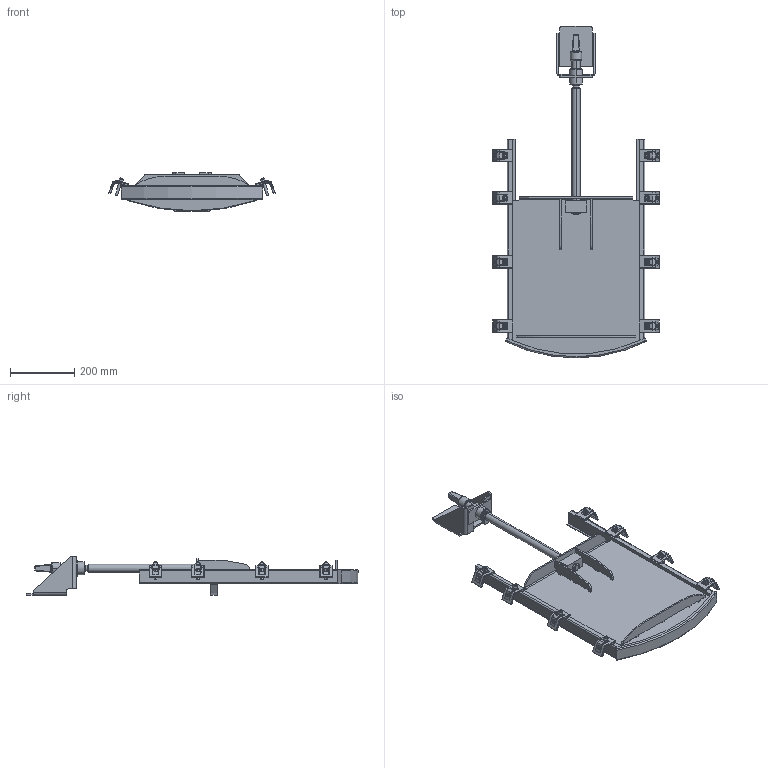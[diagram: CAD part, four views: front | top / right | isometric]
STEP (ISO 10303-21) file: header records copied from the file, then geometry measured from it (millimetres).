
FILE_DESCRIPTION (( 'STEP AP214' ), '1' );
FILE_NAME ('LW 350 Schacht1200 betoniert.STEP', '2022-05-20T08:35:24', ( '' ), ( '' ), 'SwSTEP 2.0', 'SolidWorks 2021', '' );
FILE_SCHEMA (( 'AUTOMOTIVE_DESIGN' ));
Length unit declared in the file: millimetre
Products named in the file (1): LW 350 Schacht1200 betoniert
Bounding box: 519.27 x 1035 x 121 mm (x, y, z)
Volume: 3384499.9 mm3; surface area: 1005319.6 mm2
Topology: 1 solids, 9 shells, 1344 faces, 3200 edges, 1802 vertices
Faces by surface type: cylinder 535, plane 389, cone 118, sphere 112, torus 104, bspline 86
Entity records: 56492 total; most frequent: CARTESIAN_POINT 11813, DIRECTION 6448, ORIENTED_EDGE 6168, EDGE_CURVE 3084, AXIS2_PLACEMENT_3D 2545, VERTEX_POINT 1786, EDGE_LOOP 1442, VECTOR 1358
